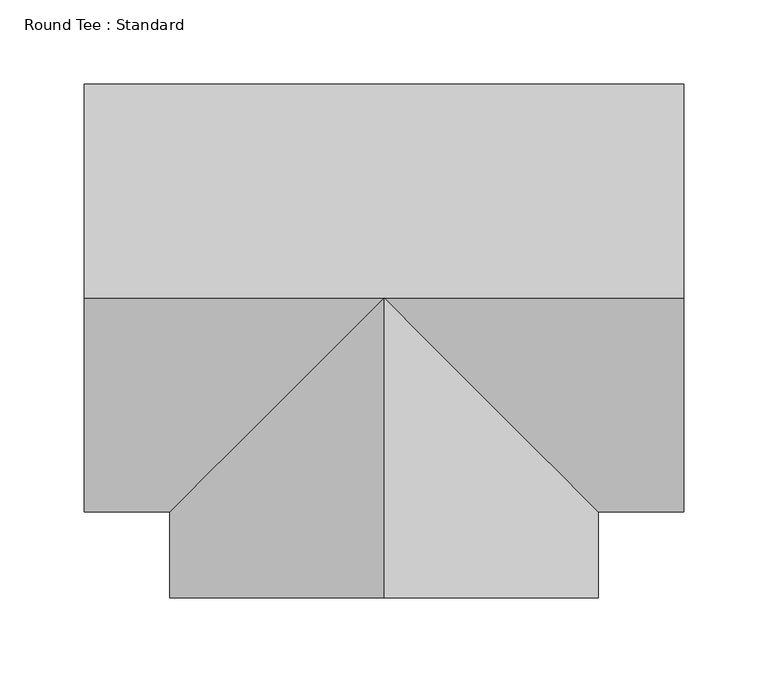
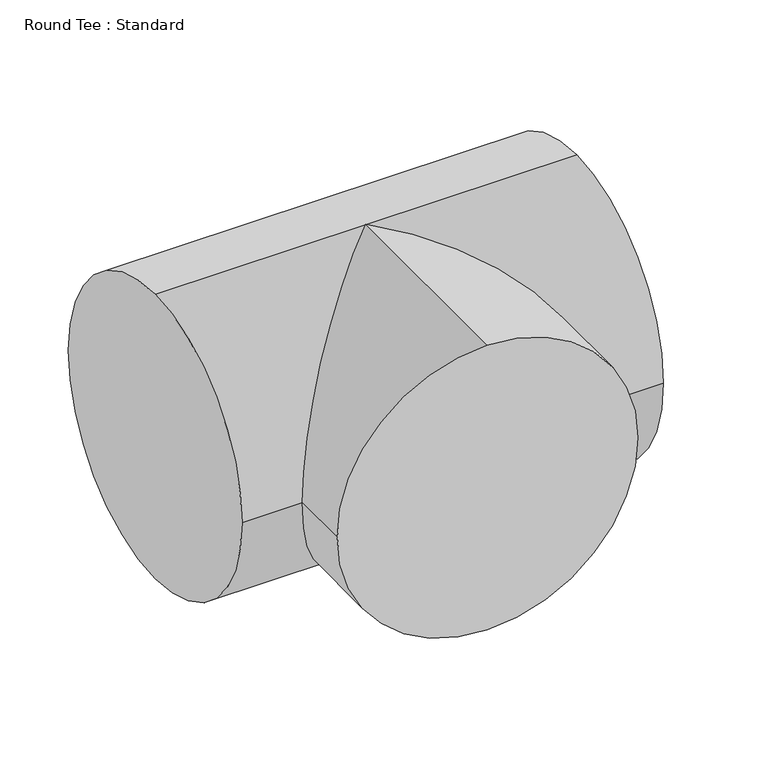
"""IFC4 building model written with IfcOpenShell, lengths in millimetres: duct fitting geometry, Round Tee : Standard."""

import ifcopenshell
import ifcopenshell.guid

model = None  # the IFC model being written
_history = None  # IfcOwnerHistory: only IFC2X3 demands one
_inside = {}  # id of a spatial element -> (the spatial element, [elements in it])
_under = {}  # id of a project, library or spatial element -> (it, [spatial elements below it])
_declared = {}  # id of a project -> (the project, [libraries it declares])
_typed = {}  # id of a type object -> (the type object, [elements of that type])
_made_of = {}  # id of a material, layer set ... -> (it, [elements and type objects made of it])


def new_model(schema):
    """Start an empty IFC model of exactly this schema.

    Asked for "IFC4X3", IfcOpenShell would pick the latest addendum, in which some entities
    have other attributes; the version numbers below select the first issue.
    IFC2X3 requires an IfcOwnerHistory on every rooted entity: one is made here for all.
    """
    global model, _history
    if schema == "IFC4X3":
        model = ifcopenshell.file(schema_version=(4, 3, 0, 0))
    else:
        model = ifcopenshell.file(schema=schema)
    _inside.clear()
    _under.clear()
    _declared.clear()
    _typed.clear()
    _made_of.clear()
    _history = None
    if model.schema == "IFC2X3":
        org = make("IfcOrganization", Name="unknown")
        user = make(
            "IfcPersonAndOrganization",
            ThePerson=make("IfcPerson", FamilyName="unknown"),
            TheOrganization=org,
        )
        app = make(
            "IfcApplication",
            ApplicationDeveloper=org,
            Version="unknown",
            ApplicationFullName="unknown",
            ApplicationIdentifier="unknown",
        )
        _history = make(
            "IfcOwnerHistory",
            OwningUser=user,
            OwningApplication=app,
            ChangeAction="ADDED",
            CreationDate=0,
        )
    return model


def make(cls, **values):
    """One entity of the class cls with the attributes given. An attribute that is None is left unset."""
    return model.create_entity(
        cls, **{name: value for name, value in values.items() if value is not None}
    )


def rooted(cls, **values):
    """An entity with a GlobalId (a new one), such as an element, a storey or a relation."""
    return make(cls, GlobalId=ifcopenshell.guid.new(), OwnerHistory=_history, **values)


def si_unit(unit_type, name, prefix=None):
    """IfcSIUnit, for example si_unit("LENGTHUNIT", "METRE", prefix="MILLI")."""
    return make("IfcSIUnit", UnitType=unit_type, Prefix=prefix, Name=name)


def assignment(units):
    """IfcUnitAssignment: the units of a project."""
    return None if units is None else make("IfcUnitAssignment", Units=units)


def point(xyz):
    """IfcCartesianPoint."""
    return None if xyz is None else make("IfcCartesianPoint", Coordinates=xyz)


def direction(xyz):
    """IfcDirection."""
    return None if xyz is None else make("IfcDirection", DirectionRatios=xyz)


def frame(location, z_axis=None, x_axis=None):
    """IfcAxis2Placement3D, a coordinate frame: its origin and axes. An axis left out is left unset."""
    return make(
        "IfcAxis2Placement3D",
        Location=point(location),
        Axis=direction(z_axis),
        RefDirection=direction(x_axis),
    )


def origin():
    """The frame at (0, 0, 0) with its axes left unset."""
    return frame((0.0, 0.0, 0.0))


def place(relative_to, where):
    """IfcLocalPlacement: puts the frame where relative to a parent placement (None: the world)."""
    return make(
        "IfcLocalPlacement", PlacementRelTo=relative_to, RelativePlacement=where
    )


def context(
    kind, dimensions, precision=None, world=None, true_north=None, identifier=None
):
    """IfcGeometricRepresentationContext, for example the 3D "Model" context."""
    return make(
        "IfcGeometricRepresentationContext",
        ContextIdentifier=identifier,
        ContextType=kind,
        CoordinateSpaceDimension=dimensions,
        Precision=precision,
        WorldCoordinateSystem=world,
        TrueNorth=true_north,
    )


def project(units=None, contexts=None):
    """IfcProject with its units and contexts."""
    return rooted(
        "IfcProject",
        Name="project",
        RepresentationContexts=contexts,
        UnitsInContext=assignment(units),
    )


def spatial(cls, under=None, at=None, **own):
    """A site, building, storey or space (cls), placed at a placement, below another one or the project."""
    s = rooted(cls, ObjectPlacement=at, **own)
    if under is not None:
        _under.setdefault(under.id(), (under, []))[1].append(s)
    return s


def circle_curve(where, radius):
    """IfcCircle in the frame where."""
    return make("IfcCircle", Position=where, Radius=radius)


def ellipse_curve(where, semi_axis1, semi_axis2):
    """IfcEllipse in the frame where."""
    return make(
        "IfcEllipse", Position=where, SemiAxis1=semi_axis1, SemiAxis2=semi_axis2
    )


def shape(context_of_items, identifier, shape_type, items):
    """IfcShapeRepresentation: the items that make up one representation, for example the "Body"."""
    return make(
        "IfcShapeRepresentation",
        ContextOfItems=context_of_items,
        RepresentationIdentifier=identifier,
        RepresentationType=shape_type,
        Items=items,
    )


def source(mapping_origin, context_of_items, identifier, shape_type, items):
    """IfcRepresentationMap: a shape defined once, which mapped items show again and again."""
    return make(
        "IfcRepresentationMap",
        MappingOrigin=mapping_origin,
        MappedRepresentation=shape(context_of_items, identifier, shape_type, items),
    )


def transform(
    local_origin,
    x_axis=None,
    y_axis=None,
    z_axis=None,
    scale=None,
    scale2=None,
    scale3=None,
    uniform=True,
):
    """IfcCartesianTransformationOperator3D, or its non-uniform kind. x_axis, y_axis, z_axis: its Axis1, 2, 3."""
    if uniform:
        return make(
            "IfcCartesianTransformationOperator3D",
            Axis1=direction(x_axis),
            Axis2=direction(y_axis),
            LocalOrigin=point(local_origin),
            Scale=scale,
            Axis3=direction(z_axis),
        )
    return make(
        "IfcCartesianTransformationOperator3DnonUniform",
        Axis1=direction(x_axis),
        Axis2=direction(y_axis),
        LocalOrigin=point(local_origin),
        Scale=scale,
        Axis3=direction(z_axis),
        Scale2=scale2,
        Scale3=scale3,
    )


def mapped(mapping_source, mapping_target):
    """IfcMappedItem: shows the shape of a source again, moved by a transform."""
    return make(
        "IfcMappedItem", MappingSource=mapping_source, MappingTarget=mapping_target
    )


def made_of(thing, what):
    """Note that an element or type object is made of a material, layer set ...; save() writes the relation."""
    if what is not None:
        _made_of.setdefault(what.id(), (what, []))[1].append(thing)
    return thing


def element(
    cls,
    number,
    at=None,
    inside=None,
    cuts=None,
    type_object=None,
    material=None,
    context=None,
    identifier="Body",
    shape_type=None,
    held_by="IfcProductDefinitionShape",
    body=None,
    shapes=None,
    **own,
):
    """One element of the class cls, such as IfcWall. Its Tag is "e" and its number.

    at: its placement. inside: the storey or other place that contains it. cuts: it is an
    opening in that element (IfcRelVoidsElement). A single representation is given by context,
    identifier, shape_type and body (its items); several are given by shapes. held_by: the class
    of the entity that holds the representations. save() writes the other relations.
    """
    e = rooted(cls, Tag="e%d" % number, ObjectPlacement=at, **own)
    if body is not None:
        shapes = [shape(context, identifier, shape_type, body)]
    if shapes is not None:
        e.Representation = make(held_by, Representations=shapes)
    if inside is not None:
        _inside.setdefault(inside.id(), (inside, []))[1].append(e)
    if cuts is not None:
        rooted(
            "IfcRelVoidsElement", RelatingBuildingElement=cuts, RelatedOpeningElement=e
        )
    if type_object is not None:
        _typed.setdefault(type_object.id(), (type_object, []))[1].append(e)
    return made_of(e, material)


def aggregate(whole, parts):
    """IfcRelAggregates: a whole, such as a stair, and the parts it consists of."""
    return rooted("IfcRelAggregates", RelatingObject=whole, RelatedObjects=parts)


def save(model, path):
    """Write the relations noted so far, then the file.

    IfcRelAggregates (storeys below a building ...), IfcRelContainedInSpatialStructure (elements
    in a storey), IfcRelDefinesByType, IfcRelAssociatesMaterial and IfcRelDeclares: one each for
    every whole, place, type object, material and project.
    """
    for whole, parts in _under.values():
        aggregate(whole, parts)
    for where, things in _inside.values():
        rooted(
            "IfcRelContainedInSpatialStructure",
            RelatedElements=things,
            RelatingStructure=where,
        )
    for kind, things in _typed.values():
        rooted("IfcRelDefinesByType", RelatedObjects=things, RelatingType=kind)
    for what, things in _made_of.values():
        rooted("IfcRelAssociatesMaterial", RelatedObjects=things, RelatingMaterial=what)
    for by, libraries in _declared.values():
        rooted("IfcRelDeclares", RelatingContext=by, RelatedDefinitions=libraries)
    model.write(path)


def plane_surface(at):
    """IfcPlane: the flat surface through the origin of the frame at, square to its z axis."""
    return make("IfcPlane", Position=at)


def cylinder_surface(at, radius):
    """IfcCylindricalSurface: all points at the distance radius from the z axis of the frame at."""
    return make("IfcCylindricalSurface", Position=at, Radius=radius)


def advanced_brep(points, edges, surfaces, faces):
    """IfcAdvancedBrep: a solid bounded by faces that lie on surfaces and meet in shared edges.

    An edge is (start, end): straight between two places in points (the first is 0);
    or (start, end, curve); or (start, end, curve, False) where it runs against its curve.
    A face is (place in surfaces, loops), or (place, loops, False) where it looks against
    its surface's normal. A loop lists edges by number (the first is 1), with a minus sign
    where the edge is run from its end to its start. The first loop is the outer one.
    """
    corners = [point(p) for p in points]
    vertices = [make("IfcVertexPoint", VertexGeometry=c) for c in corners]
    made = []
    for start, end, *more in edges:
        made.append(
            make(
                "IfcEdgeCurve",
                EdgeStart=vertices[start],
                EdgeEnd=vertices[end],
                EdgeGeometry=more[0] if more else make("IfcPolyline", Points=[corners[start], corners[end]]),
                SameSense=more[1] if len(more) > 1 else True,
            )
        )
    hull = []
    for where, loops, *sense in faces:
        bounds = []
        for j, loop in enumerate(loops):
            ring = [make("IfcOrientedEdge", EdgeElement=made[abs(k) - 1], Orientation=k > 0) for k in loop]
            bounds.append(
                make(
                    "IfcFaceOuterBound" if j == 0 else "IfcFaceBound",
                    Bound=make("IfcEdgeLoop", EdgeList=ring),
                    Orientation=True,
                )
            )
        hull.append(make("IfcAdvancedFace", Bounds=bounds, FaceSurface=surfaces[where], SameSense=sense[0] if sense else True))
    return make("IfcAdvancedBrep", Outer=make("IfcClosedShell", CfsFaces=hull))


def round_tee_standard_9beeffc8(model_context):
    return source(origin(), model_context, "Body", "AdvancedBrep", [
        advanced_brep(
        [(0.0, -177.8, 127.0), (-127.0, -177.8, 0.0), (0.0, -177.8, -127.0), (127.0, -177.8, 0.0), (127.0, -127.0, 0.0), (0.0, 0.0, 127.0), (0.0, 0.0, -127.0), (-127.0, -127.0, 0.0), (-177.8, 0.0, 127.0), (-177.8, 127.0, 0.0), (-177.8, 0.0, -127.0), (-177.8, -127.0, 0.0), (177.8, 0.0, 127.0), (177.8, -127.0, 0.0), (177.8, 0.0, -127.0), (177.8, 127.0, 0.0)],
        [
            (0, 1, circle_curve(frame((0.0, -177.8, 0.0), z_axis=(0.0, -1.0, 0.0), x_axis=(1.0, 0.0, 0.0)), 127.0)),
            (1, 2, circle_curve(frame((0.0, -177.8, 0.0), z_axis=(0.0, -1.0, 0.0), x_axis=(1.0, 0.0, 0.0)), 127.0)),
            (2, 3, circle_curve(frame((0.0, -177.8, 0.0), z_axis=(0.0, -1.0, 0.0), x_axis=(1.0, 0.0, 0.0)), 127.0)),
            (3, 0, circle_curve(frame((0.0, -177.8, 0.0), z_axis=(0.0, -1.0, 0.0), x_axis=(1.0, 0.0, 0.0)), 127.0)),
            (3, 4),
            (4, 5, ellipse_curve(frame((0.0, 0.0, 0.0), z_axis=(-0.7071067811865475, -0.7071067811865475, 0.0), x_axis=(-0.7071067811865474, 0.7071067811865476, 0.0)), 179.6051224, 127.0)),
            (5, 0),
            (2, 6),
            (6, 4, ellipse_curve(frame((0.0, 0.0, 0.0), z_axis=(-0.7071067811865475, -0.7071067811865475, 0.0), x_axis=(-0.7071067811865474, 0.7071067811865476, 0.0)), 179.6051224, 127.0)),
            (1, 7),
            (7, 6, ellipse_curve(frame((0.0, 0.0, 0.0), z_axis=(0.7071067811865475, -0.7071067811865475, 0.0), x_axis=(0.7071067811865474, 0.7071067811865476, 0.0)), 179.6051224, 127.0)),
            (5, 7, ellipse_curve(frame((0.0, 0.0, 0.0), z_axis=(0.7071067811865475, -0.7071067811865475, 0.0), x_axis=(0.7071067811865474, 0.7071067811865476, 0.0)), 179.6051224, 127.0)),
            (8, 9, circle_curve(frame((-177.8, 0.0, 0.0), z_axis=(-1.0, 0.0, 0.0), x_axis=(0.0, 1.0, 0.0)), 127.0)),
            (9, 10, circle_curve(frame((-177.8, 0.0, 0.0), z_axis=(-1.0, 0.0, 0.0), x_axis=(0.0, 1.0, 0.0)), 127.0)),
            (10, 11, circle_curve(frame((-177.8, 0.0, 0.0), z_axis=(-1.0, 0.0, 0.0), x_axis=(0.0, 1.0, 0.0)), 127.0)),
            (11, 8, circle_curve(frame((-177.8, 0.0, 0.0), z_axis=(-1.0, 0.0, 0.0), x_axis=(0.0, 1.0, 0.0)), 127.0)),
            (12, 13, circle_curve(frame((177.8, 0.0, 0.0), z_axis=(1.0, 0.0, 0.0), x_axis=(0.0, 1.0, 0.0)), 127.0)),
            (13, 14, circle_curve(frame((177.8, 0.0, 0.0), z_axis=(1.0, 0.0, 0.0), x_axis=(0.0, 1.0, 0.0)), 127.0)),
            (14, 15, circle_curve(frame((177.8, 0.0, 0.0), z_axis=(1.0, 0.0, 0.0), x_axis=(0.0, 1.0, 0.0)), 127.0)),
            (15, 12, circle_curve(frame((177.8, 0.0, 0.0), z_axis=(1.0, 0.0, 0.0), x_axis=(0.0, 1.0, 0.0)), 127.0)),
            (8, 5),
            (5, 12),
            (15, 9),
            (14, 6),
            (6, 10),
            (7, 11),
            (13, 4),
        ],
        [
            plane_surface(frame((0.0, -177.8, 0.0), z_axis=(0.0, -1.0, 0.0), x_axis=(0.0, 0.0, 1.0))),
            cylinder_surface(frame((0.0, 0.0, 0.0), z_axis=(0.0, 1.0, 0.0), x_axis=(1.0, 0.0, 0.0)), 127.0),
            plane_surface(frame((-177.8, 0.0, 0.0), z_axis=(-1.0, 0.0, 0.0), x_axis=(0.0, 0.0, 1.0))),
            plane_surface(frame((177.8, 0.0, 0.0), z_axis=(1.0, 0.0, 0.0), x_axis=(0.0, 0.0, 1.0))),
            cylinder_surface(frame((-177.8, 0.0, 0.0), z_axis=(-1.0, 0.0, 0.0), x_axis=(0.0, 1.0, 0.0)), 127.0),
        ],
        [
            (0, [[1, 2, 3, 4]]),
            (1, [[-4, 5, 6, 7]]),
            (1, [[-3, 8, 9, -5]]),
            (1, [[-2, 10, 11, -8]]),
            (1, [[-1, -7, 12, -10]]),
            (2, [[13, 14, 15, 16]]),
            (3, [[17, 18, 19, 20]]),
            (4, [[-13, 21, 22, -20, 23]]),
            (4, [[-14, -23, -19, 24, 25]]),
            (4, [[-15, -25, -11, 26]]),
            (4, [[-18, 27, -9, -24]]),
            (4, [[-16, -26, -12, -21]]),
            (4, [[-17, -22, -6, -27]]),
        ],
    ),
    ])


if __name__ == "__main__":
    model = new_model("IFC4")
    model_context = context("Model", 3, world=origin())
    ifc_project = project(units=[si_unit("LENGTHUNIT", "METRE", prefix="MILLI")], contexts=[model_context])
    site = spatial("IfcSite", under=ifc_project)
    building = spatial("IfcBuilding", under=site)
    placement = place(None, origin())
    round_tee_standard_shape = round_tee_standard_9beeffc8(model_context)
    element("IfcDuctFitting", 1, ObjectType="Round Tee : Standard", at=placement, inside=building, context=model_context, shape_type="MappedRepresentation", body=[
        mapped(round_tee_standard_shape, transform((0.0, 0.0, 0.0), x_axis=(1.0, 0.0, 0.0), y_axis=(0.0, 1.0, 0.0), z_axis=(0.0, 0.0, 1.0))),
    ])
    save(model, "model.ifc")
